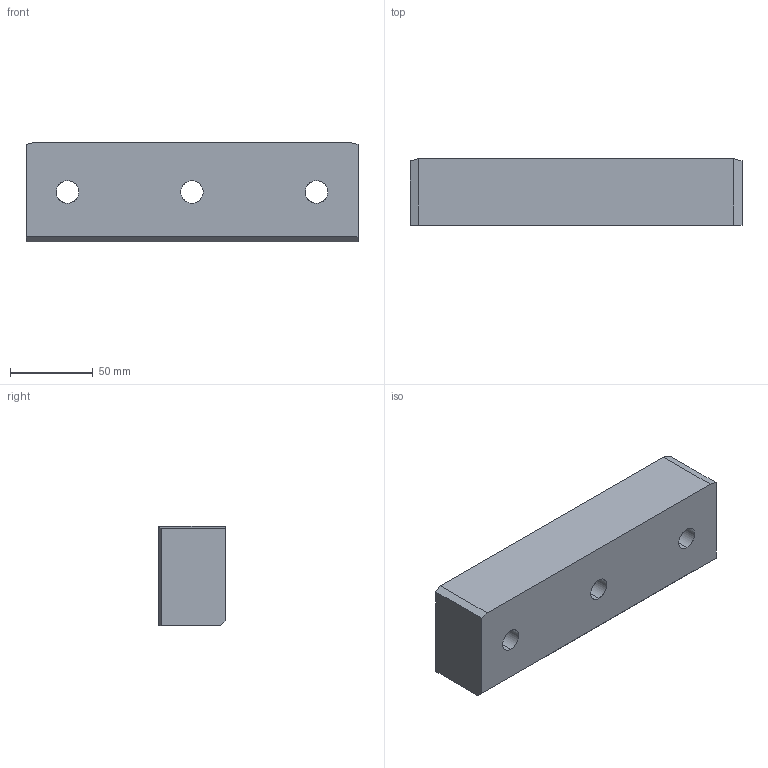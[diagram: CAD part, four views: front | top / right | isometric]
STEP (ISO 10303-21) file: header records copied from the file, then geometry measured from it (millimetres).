
FILE_DESCRIPTION(('CATIA V5 STEP Exchange'),'2;1');
FILE_NAME('C:\Users\Utente\Desktop\3D files A609\A609-040-200.stp','2020-04-13T19:46:58+00:00',('none'),('none'),'CATIA Version 5 Release 20 GA (IN-10)','CATIA V5 STEP AP203','none');
FILE_SCHEMA(('CONFIG_CONTROL_DESIGN'));
Length unit declared in the file: millimetre
Products named in the file (1): Noname
Bounding box: 200 x 40 x 60 mm (x, y, z)
Surface area: 49210.1 mm2 (no closed solid volume)
Topology: 0 solids, 20 shells, 26 faces, 110 edges, 98 vertices
Faces by surface type: extrusion 14, cylinder 12
Entity records: 1474 total; most frequent: CARTESIAN_POINT 595, ORIENTED_EDGE 122, DIRECTION 114, EDGE_CURVE 110, VERTEX_POINT 98, VECTOR 66, LINE 52, B_SPLINE_CURVE_WITH_KNOTS 48
